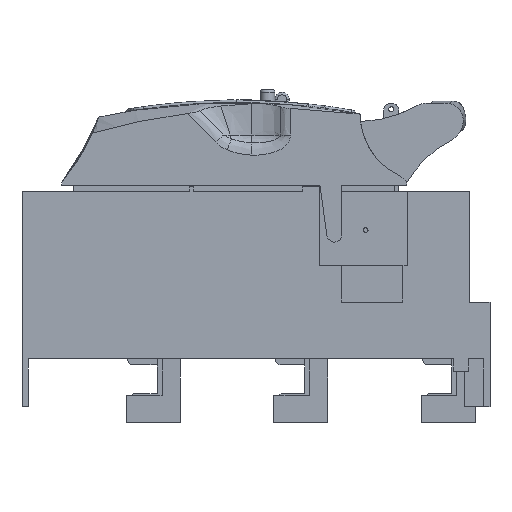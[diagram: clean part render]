
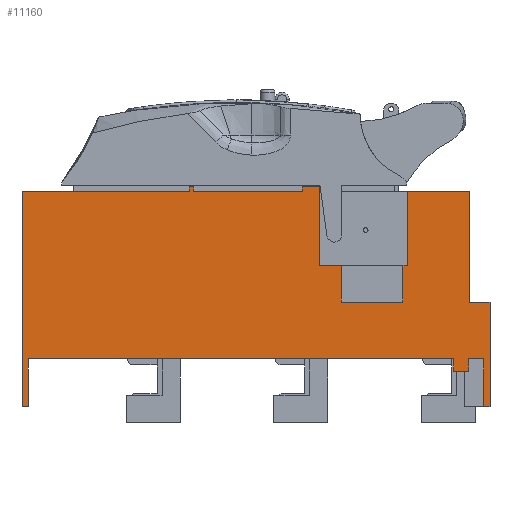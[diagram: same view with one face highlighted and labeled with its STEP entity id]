
A CAD part, front view. The second image highlights one B-rep face of the part: STEP entity #11160.
In plain terms, the highlighted planar face has unit normal (0, -1, 0).
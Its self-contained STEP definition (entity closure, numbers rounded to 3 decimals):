
#8913=FACE_OUTER_BOUND('',#13269,.T.);
#10152=PLANE('',#32335);
#11160=ADVANCED_FACE('',(#8913),#10152,.F.);
#13269=EDGE_LOOP('',(#19125,#19126,#19127,#19128,#19129,#19130,#19131,#19132,
#19133,#19134,#19135,#19136,#19137,#19138,#19139,#19140,#19141,#19142,#19143,
#19144,#19145,#19146,#19147,#19148,#19149,#19150,#19151,#19152));
#15142=LINE('',#41558,#16947);
#15148=LINE('',#41570,#16953);
#15231=LINE('',#41741,#17036);
#15233=LINE('',#41745,#17038);
#15234=LINE('',#41747,#17039);
#15235=LINE('',#41749,#17040);
#15236=LINE('',#41750,#17041);
#15237=LINE('',#41752,#17042);
#15238=LINE('',#41754,#17043);
#15239=LINE('',#41756,#17044);
#15240=LINE('',#41758,#17045);
#15241=LINE('',#41760,#17046);
#15242=LINE('',#41762,#17047);
#15243=LINE('',#41764,#17048);
#15244=LINE('',#41766,#17049);
#15245=LINE('',#41768,#17050);
#15246=LINE('',#41770,#17051);
#15247=LINE('',#41772,#17052);
#15248=LINE('',#41774,#17053);
#15249=LINE('',#41776,#17054);
#15250=LINE('',#41778,#17055);
#15251=LINE('',#41780,#17056);
#15252=LINE('',#41782,#17057);
#15253=LINE('',#41784,#17058);
#15254=LINE('',#41786,#17059);
#15255=LINE('',#41788,#17060);
#15256=LINE('',#41790,#17061);
#15257=LINE('',#41792,#17062);
#16947=VECTOR('',#34354,1.);
#16953=VECTOR('',#34360,1.);
#17036=VECTOR('',#34495,1.);
#17038=VECTOR('',#34499,1.);
#17039=VECTOR('',#34500,1.);
#17040=VECTOR('',#34501,1.);
#17041=VECTOR('',#34502,1.);
#17042=VECTOR('',#34503,1.);
#17043=VECTOR('',#34504,1.);
#17044=VECTOR('',#34505,1.);
#17045=VECTOR('',#34506,1.);
#17046=VECTOR('',#34507,1.);
#17047=VECTOR('',#34508,1.);
#17048=VECTOR('',#34509,1.);
#17049=VECTOR('',#34510,1.);
#17050=VECTOR('',#34511,1.);
#17051=VECTOR('',#34512,1.);
#17052=VECTOR('',#34513,1.);
#17053=VECTOR('',#34514,1.);
#17054=VECTOR('',#34515,1.);
#17055=VECTOR('',#34516,1.);
#17056=VECTOR('',#34517,1.);
#17057=VECTOR('',#34518,1.);
#17058=VECTOR('',#34519,1.);
#17059=VECTOR('',#34520,1.);
#17060=VECTOR('',#34521,1.);
#17061=VECTOR('',#34522,1.);
#17062=VECTOR('',#34523,1.);
#19125=ORIENTED_EDGE('',*,*,#28654,.T.);
#19126=ORIENTED_EDGE('',*,*,#28569,.T.);
#19127=ORIENTED_EDGE('',*,*,#28656,.F.);
#19128=ORIENTED_EDGE('',*,*,#28657,.F.);
#19129=ORIENTED_EDGE('',*,*,#28658,.T.);
#19130=ORIENTED_EDGE('',*,*,#28563,.T.);
#19131=ORIENTED_EDGE('',*,*,#28659,.F.);
#19132=ORIENTED_EDGE('',*,*,#28660,.F.);
#19133=ORIENTED_EDGE('',*,*,#28661,.F.);
#19134=ORIENTED_EDGE('',*,*,#28662,.F.);
#19135=ORIENTED_EDGE('',*,*,#28663,.F.);
#19136=ORIENTED_EDGE('',*,*,#28664,.F.);
#19137=ORIENTED_EDGE('',*,*,#28665,.F.);
#19138=ORIENTED_EDGE('',*,*,#28666,.T.);
#19139=ORIENTED_EDGE('',*,*,#28667,.T.);
#19140=ORIENTED_EDGE('',*,*,#28668,.F.);
#19141=ORIENTED_EDGE('',*,*,#28669,.T.);
#19142=ORIENTED_EDGE('',*,*,#28670,.T.);
#19143=ORIENTED_EDGE('',*,*,#28671,.T.);
#19144=ORIENTED_EDGE('',*,*,#28672,.T.);
#19145=ORIENTED_EDGE('',*,*,#28673,.T.);
#19146=ORIENTED_EDGE('',*,*,#28674,.F.);
#19147=ORIENTED_EDGE('',*,*,#28675,.F.);
#19148=ORIENTED_EDGE('',*,*,#28676,.T.);
#19149=ORIENTED_EDGE('',*,*,#28677,.T.);
#19150=ORIENTED_EDGE('',*,*,#28678,.F.);
#19151=ORIENTED_EDGE('',*,*,#28679,.F.);
#19152=ORIENTED_EDGE('',*,*,#28680,.F.);
#26183=VERTEX_POINT('',#41557);
#26184=VERTEX_POINT('',#41559);
#26189=VERTEX_POINT('',#41569);
#26190=VERTEX_POINT('',#41571);
#26252=VERTEX_POINT('',#41742);
#26253=VERTEX_POINT('',#41746);
#26254=VERTEX_POINT('',#41748);
#26255=VERTEX_POINT('',#41751);
#26256=VERTEX_POINT('',#41753);
#26257=VERTEX_POINT('',#41755);
#26258=VERTEX_POINT('',#41757);
#26259=VERTEX_POINT('',#41759);
#26260=VERTEX_POINT('',#41761);
#26261=VERTEX_POINT('',#41763);
#26262=VERTEX_POINT('',#41765);
#26263=VERTEX_POINT('',#41767);
#26264=VERTEX_POINT('',#41769);
#26265=VERTEX_POINT('',#41771);
#26266=VERTEX_POINT('',#41773);
#26267=VERTEX_POINT('',#41775);
#26268=VERTEX_POINT('',#41777);
#26269=VERTEX_POINT('',#41779);
#26270=VERTEX_POINT('',#41781);
#26271=VERTEX_POINT('',#41783);
#26272=VERTEX_POINT('',#41785);
#26273=VERTEX_POINT('',#41787);
#26274=VERTEX_POINT('',#41789);
#26275=VERTEX_POINT('',#41791);
#28563=EDGE_CURVE('',#26184,#26183,#15142,.T.);
#28569=EDGE_CURVE('',#26190,#26189,#15148,.T.);
#28654=EDGE_CURVE('',#26252,#26190,#15231,.T.);
#28656=EDGE_CURVE('',#26253,#26189,#15233,.T.);
#28657=EDGE_CURVE('',#26254,#26253,#15234,.T.);
#28658=EDGE_CURVE('',#26254,#26184,#15235,.T.);
#28659=EDGE_CURVE('',#26255,#26183,#15236,.T.);
#28660=EDGE_CURVE('',#26256,#26255,#15237,.T.);
#28661=EDGE_CURVE('',#26257,#26256,#15238,.T.);
#28662=EDGE_CURVE('',#26258,#26257,#15239,.T.);
#28663=EDGE_CURVE('',#26259,#26258,#15240,.T.);
#28664=EDGE_CURVE('',#26260,#26259,#15241,.T.);
#28665=EDGE_CURVE('',#26261,#26260,#15242,.T.);
#28666=EDGE_CURVE('',#26261,#26262,#15243,.T.);
#28667=EDGE_CURVE('',#26262,#26263,#15244,.T.);
#28668=EDGE_CURVE('',#26264,#26263,#15245,.T.);
#28669=EDGE_CURVE('',#26264,#26265,#15246,.T.);
#28670=EDGE_CURVE('',#26265,#26266,#15247,.T.);
#28671=EDGE_CURVE('',#26266,#26267,#15248,.T.);
#28672=EDGE_CURVE('',#26267,#26268,#15249,.T.);
#28673=EDGE_CURVE('',#26268,#26269,#15250,.T.);
#28674=EDGE_CURVE('',#26270,#26269,#15251,.T.);
#28675=EDGE_CURVE('',#26271,#26270,#15252,.T.);
#28676=EDGE_CURVE('',#26271,#26272,#15253,.T.);
#28677=EDGE_CURVE('',#26272,#26273,#15254,.T.);
#28678=EDGE_CURVE('',#26274,#26273,#15255,.T.);
#28679=EDGE_CURVE('',#26275,#26274,#15256,.T.);
#28680=EDGE_CURVE('',#26252,#26275,#15257,.T.);
#32335=AXIS2_PLACEMENT_3D('',#41793,#34524,#34525);
#34354=DIRECTION('',(1.,0.,0.));
#34360=DIRECTION('',(1.,0.,0.));
#34495=DIRECTION('',(0.,0.,1.));
#34499=DIRECTION('',(0.,0.,1.));
#34500=DIRECTION('',(-1.,0.,0.));
#34501=DIRECTION('',(0.,0.,1.));
#34502=DIRECTION('',(0.,0.,1.));
#34503=DIRECTION('',(-1.,0.,0.));
#34504=DIRECTION('',(0.,0.,-1.));
#34505=DIRECTION('',(1.,0.,0.));
#34506=DIRECTION('',(0.,0.,-1.));
#34507=DIRECTION('',(1.,0.,0.));
#34508=DIRECTION('',(0.,0.,1.));
#34509=DIRECTION('',(-1.,0.,0.));
#34510=DIRECTION('',(0.,0.,-1.));
#34511=DIRECTION('',(1.,0.,0.));
#34512=DIRECTION('',(0.,0.,1.));
#34513=DIRECTION('',(-1.,0.,0.));
#34514=DIRECTION('',(0.,0.,1.));
#34515=DIRECTION('',(-1.,0.,0.));
#34516=DIRECTION('',(0.,0.,-1.));
#34517=DIRECTION('',(1.,0.,0.));
#34518=DIRECTION('',(0.,0.,-1.));
#34519=DIRECTION('',(-1.,0.,0.));
#34520=DIRECTION('',(0.,0.,-1.));
#34521=DIRECTION('',(1.,0.,0.));
#34522=DIRECTION('',(0.,0.,1.));
#34523=DIRECTION('',(-1.,0.,0.));
#34524=DIRECTION('',(0.,1.,0.));
#34525=DIRECTION('',(0.,0.,1.));
#41557=CARTESIAN_POINT('',(157.087,-44.481,0.));
#41558=CARTESIAN_POINT('',(-0.413,-44.481,0.));
#41559=CARTESIAN_POINT('',(150.887,-44.481,0.));
#41569=CARTESIAN_POINT('',(144.887,-44.481,0.));
#41570=CARTESIAN_POINT('',(-0.413,-44.481,0.));
#41571=CARTESIAN_POINT('',(-28.313,-44.481,0.));
#41741=CARTESIAN_POINT('',(-28.313,-44.481,-19.5));
#41742=CARTESIAN_POINT('',(-28.313,-44.481,-19.5));
#41745=CARTESIAN_POINT('',(144.887,-44.481,-5.));
#41746=CARTESIAN_POINT('',(144.887,-44.481,-5.));
#41747=CARTESIAN_POINT('',(144.887,-44.481,-5.));
#41748=CARTESIAN_POINT('',(150.887,-44.481,-5.));
#41749=CARTESIAN_POINT('',(150.887,-44.481,-5.));
#41750=CARTESIAN_POINT('',(157.087,-44.481,-74.983));
#41751=CARTESIAN_POINT('',(157.087,-44.481,-19.5));
#41752=CARTESIAN_POINT('',(157.087,-44.481,-19.5));
#41753=CARTESIAN_POINT('',(159.587,-44.481,-19.5));
#41754=CARTESIAN_POINT('',(159.587,-44.481,23.1));
#41755=CARTESIAN_POINT('',(159.587,-44.481,23.1));
#41756=CARTESIAN_POINT('',(-0.413,-44.481,23.1));
#41757=CARTESIAN_POINT('',(151.087,-44.481,23.1));
#41758=CARTESIAN_POINT('',(151.087,-44.481,68.1));
#41759=CARTESIAN_POINT('',(151.087,-44.481,68.1));
#41760=CARTESIAN_POINT('',(151.087,-44.481,68.1));
#41761=CARTESIAN_POINT('',(126.087,-44.481,68.1));
#41762=CARTESIAN_POINT('',(126.087,-44.481,68.1));
#41763=CARTESIAN_POINT('',(126.087,-44.481,38.1));
#41764=CARTESIAN_POINT('',(126.087,-44.481,38.1));
#41765=CARTESIAN_POINT('',(124.087,-44.481,38.1));
#41766=CARTESIAN_POINT('',(124.087,-44.481,38.1));
#41767=CARTESIAN_POINT('',(124.087,-44.481,23.1));
#41768=CARTESIAN_POINT('',(-0.413,-44.481,23.1));
#41769=CARTESIAN_POINT('',(99.087,-44.481,23.1));
#41770=CARTESIAN_POINT('',(99.087,-44.481,38.1));
#41771=CARTESIAN_POINT('',(99.087,-44.481,38.1));
#41772=CARTESIAN_POINT('',(126.087,-44.481,38.1));
#41773=CARTESIAN_POINT('',(90.087,-44.481,38.1));
#41774=CARTESIAN_POINT('',(90.087,-44.481,68.1));
#41775=CARTESIAN_POINT('',(90.087,-44.481,70.1));
#41776=CARTESIAN_POINT('',(90.087,-44.481,70.1));
#41777=CARTESIAN_POINT('',(83.087,-44.481,70.1));
#41778=CARTESIAN_POINT('',(83.087,-44.481,70.1));
#41779=CARTESIAN_POINT('',(83.087,-44.481,68.1));
#41780=CARTESIAN_POINT('',(126.087,-44.481,68.1));
#41781=CARTESIAN_POINT('',(39.087,-44.481,68.1));
#41782=CARTESIAN_POINT('',(39.087,-44.481,70.1));
#41783=CARTESIAN_POINT('',(39.087,-44.481,70.1));
#41784=CARTESIAN_POINT('',(37.087,-44.481,70.1));
#41785=CARTESIAN_POINT('',(37.087,-44.481,70.1));
#41786=CARTESIAN_POINT('',(37.087,-44.481,70.1));
#41787=CARTESIAN_POINT('',(37.087,-44.481,68.1));
#41788=CARTESIAN_POINT('',(126.087,-44.481,68.1));
#41789=CARTESIAN_POINT('',(-30.913,-44.481,68.1));
#41790=CARTESIAN_POINT('',(-30.913,-44.481,20.5));
#41791=CARTESIAN_POINT('',(-30.913,-44.481,-19.5));
#41792=CARTESIAN_POINT('',(-30.913,-44.481,-19.5));
#41793=CARTESIAN_POINT('',(-0.413,-44.481,23.1));
